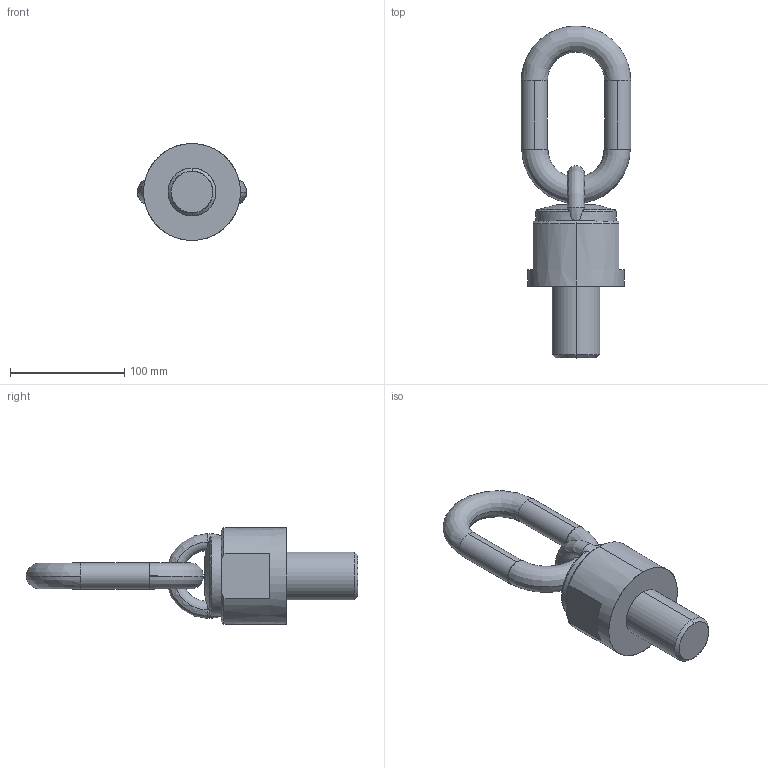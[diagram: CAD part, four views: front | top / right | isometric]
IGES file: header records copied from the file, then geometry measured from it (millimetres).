
Start section: START RECORD GO HERE.
Global section: file name: C8001004263.igs; native system: DASSAULT SYSTEMES CATIA V5 R20 - www.3ds.com; preprocessor: CATIA Version 5 Release 20 ; author: Utente; organization: NB04-ASUS; date: 20200412.161054; units: millimetre
Bounding box: 96 x 291 x 85 mm (x, y, z)
Surface area: 64996 mm2 (no closed solid volume)
Topology: 0 solids, 0 shells, 45 faces, 235 edges, 235 vertices
Faces by surface type: revolution 33, extrusion 12
